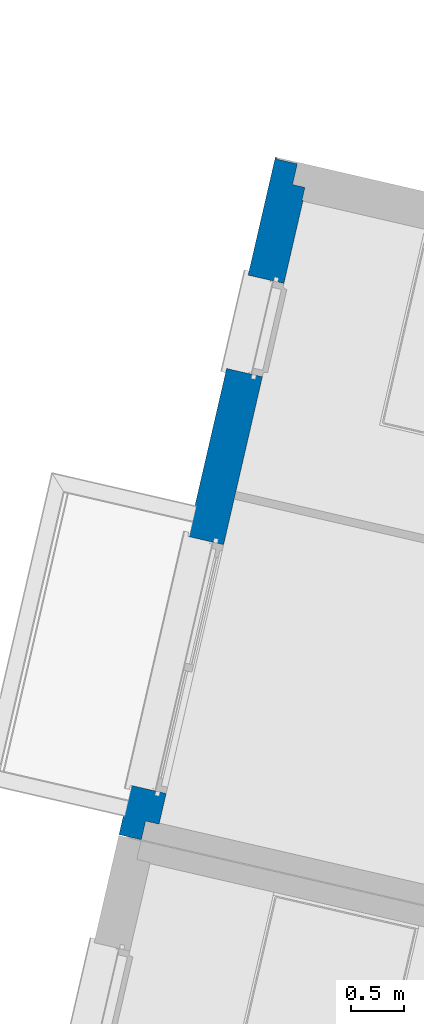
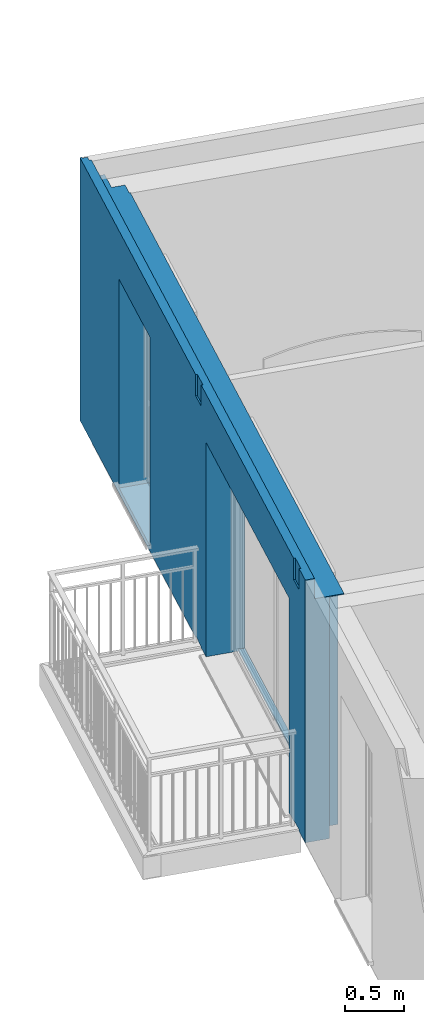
# One storey, part 29 of 90: 1 wall, 2 openings.
"""IFC2X3 building model written with IfcOpenShell, lengths in metres."""

from ifc_helpers import new_model, entity, si_unit, converted_unit, derived_unit, money_unit, direction, frame, origin_with_axes, place, context, subcontext, project, spatial, faceted_brep, material, material_list, type_object, element, save


model = new_model("IFC2X3")

# Units and contexts
model_context = context("Model", 3, precision=1e-05, world=origin_with_axes(), true_north=direction((0.0, 1.0)))
body_context = subcontext(model_context, "Body", "Model", "MODEL_VIEW")
ifc_project = project(units=[si_unit("LENGTHUNIT", "METRE"), si_unit("AREAUNIT", "SQUARE_METRE"), si_unit("VOLUMEUNIT", "CUBIC_METRE"), converted_unit("PLANEANGLEUNIT", "DEGREE", entity("IfcPlaneAngleMeasure", 0.0174532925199), si_unit("PLANEANGLEUNIT", "RADIAN"), dimensions=[0, 0, 0, 0, 0, 0, 0]), si_unit("SOLIDANGLEUNIT", "STERADIAN"), money_unit("EUR"), converted_unit("TIMEUNIT", "Year", entity("IfcTimeMeasure", 31556926.0), si_unit("TIMEUNIT", "SECOND"), dimensions=[0, 0, 1, 0, 0, 0, 0]), si_unit("MASSUNIT", "GRAM", prefix="KILO"), si_unit("THERMODYNAMICTEMPERATUREUNIT", "DEGREE_CELSIUS"), si_unit("LUMINOUSINTENSITYUNIT", "LUMEN"), si_unit("ENERGYUNIT", "JOULE", prefix="MEGA"), derived_unit("THERMALCONDUCTANCEUNIT", [(si_unit("POWERUNIT", "WATT"), 1), (si_unit("LENGTHUNIT", "METRE"), -1), (si_unit("THERMODYNAMICTEMPERATUREUNIT", "KELVIN"), -1)]), derived_unit("SPECIFICHEATCAPACITYUNIT", [(si_unit("ENERGYUNIT", "JOULE"), 1), (si_unit("MASSUNIT", "GRAM", prefix="KILO"), -1), (si_unit("THERMODYNAMICTEMPERATUREUNIT", "KELVIN"), -1)]), derived_unit("MASSDENSITYUNIT", [(si_unit("MASSUNIT", "GRAM", prefix="KILO"), 1), (si_unit("VOLUMEUNIT", "CUBIC_METRE"), -1)])], contexts=[model_context])

# Site, building, storey
site_placement = place(None, origin_with_axes())
site = spatial("IfcSite", under=ifc_project, at=site_placement, Name="Site", CompositionType="ELEMENT")
building_placement = place(site_placement, origin_with_axes())
building = spatial("IfcBuilding", under=site, at=building_placement, Name="Bâtiment", CompositionType="ELEMENT")
storey_placement = place(building_placement, frame((0.0, 0.0, 2.72), z_axis=(0.0, 0.0, 1.0), x_axis=(1.0, 0.0, 0.0)))
storey = spatial("IfcBuildingStorey", under=building, at=storey_placement, Name="R+1", CompositionType="ELEMENT", Elevation=2.72)

# Wall, openings
ifc_material_1 = material(Name="Finition int - Plaque de plâtre")
ifc_material_2 = material(Name="Isolation - Polystyrène extrudé")
ifc_material_3 = material(Name="Bloc ELITHERM")
ifc_material_4 = material(Name="Isolation - Polystyrène expansé")
ifc_material_5 = material(Name="Mortier")
ifc_material_6 = material(Name="Béton cellulaire")
ifc_material_7 = material(Name="Finition ext - Crépis")
ifc_material_list = material_list([ifc_material_1, ifc_material_2, ifc_material_3, ifc_material_4, ifc_material_5, ifc_material_6, ifc_material_7])
wall_type = type_object("IfcWallType", Name="Mur ALKERN + planelle 21 345 x 2720", PredefinedType="USERDEFINED")
wall_placement = place(storey_placement, frame((-15.4467387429, 10.3674335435, 0.0), z_axis=(0.0, 0.0, 1.0), x_axis=(-0.224876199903, -0.974387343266, 0.0)))
wall = element("IfcWall", 1, at=wall_placement, inside=storey, type_object=wall_type, material=ifc_material_list, Name="Mue bloc ALKERN isolé", ObjectType="SOLIDWALL", context=body_context, shape_type="Brep", body=[
    faceted_brep([(6.35486443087, 0.34499998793, 0.0), (0.335000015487, 0.34499998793, 0.0), (0.335000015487, 0.344999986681, 2.51), (6.53486443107, 0.344999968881, 2.51000000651), (6.53486443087, 0.344999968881, 2.5), (6.35486443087, 0.34499998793, 2.5), (2.03864319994, 0.34499998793, 2.22), (2.03864319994, 0.344999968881, 2.4), (1.13864319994, 0.344999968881, 2.4), (1.13864319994, 0.34499998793, 2.22), (1.13864319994, 0.34499998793, 0.12), (2.03864319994, 0.34499998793, 0.12), (6.05872899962, 0.34499998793, 2.22), (6.05872899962, 0.344999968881, 2.4), (3.65872899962, 0.344999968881, 2.4), (3.65872899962, 0.34499998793, 2.22), (3.65872899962, 0.34499998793, 0.02), (6.05872899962, 0.34499998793, 0.02), (6.35486443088, 0.335000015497, 0.0), (0.335000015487, 0.335000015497, 0.0), (0.335000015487, 0.335000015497, 2.51), (6.53486443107, 0.335000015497, 2.51000000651), (6.53486443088, 0.335000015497, 2.5), (6.35486443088, 0.335000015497, 2.5), (2.03864319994, 0.335000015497, 2.22), (2.03864319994, 0.335000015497, 2.4), (1.13864319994, 0.335000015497, 2.4), (1.13864319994, 0.335000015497, 2.22), (1.13864319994, 0.335000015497, 0.12), (2.03864319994, 0.335000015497, 0.12), (6.05872899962, 0.335000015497, 2.22), (6.05872899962, 0.335000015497, 2.4), (3.65872899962, 0.335000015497, 2.4), (3.65872899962, 0.335000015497, 2.22), (3.65872899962, 0.335000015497, 0.02), (6.05872899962, 0.335000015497, 0.02)], [[[0, 1, 2, 3, 4, 5], [6, 7, 8, 9, 10, 11], [12, 13, 14, 15, 16, 17]], [[18, 19, 1, 0]], [[19, 20, 2, 1]], [[3, 2, 20, 21]], [[21, 22, 4, 3]], [[23, 5, 4, 22]], [[18, 0, 5, 23]], [[24, 25, 7, 6]], [[25, 26, 8, 7]], [[26, 27, 9, 8]], [[28, 10, 9, 27]], [[29, 11, 10, 28]], [[11, 29, 24, 6]], [[13, 12, 30, 31]], [[14, 13, 31, 32]], [[15, 14, 32, 33]], [[15, 33, 34, 16]], [[16, 34, 35, 17]], [[30, 12, 17, 35]], [[21, 20, 19, 18, 23, 22], [25, 24, 29, 28, 27, 26], [31, 30, 35, 34, 33, 32]]]),
    faceted_brep([(3.65872899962, 0.245, 0.02), (3.65872899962, 0.286, 0.02), (3.65872899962, 0.335000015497, 0.02), (3.65872899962, 0.335000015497, 2.22), (3.65872899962, 0.245, 2.22), (3.65872899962, 0.215000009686, 0.02), (3.65872899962, 0.215000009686, 0.0), (3.65872899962, 0.286, 0.0), (6.05872899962, 0.286, 0.02), (6.05872899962, 0.335000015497, 0.02), (6.35486443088, 0.335000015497, 0.0), (0.214999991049, 0.335000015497, 0.0), (0.214999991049, 0.335000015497, 2.50999999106), (6.53486443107, 0.335000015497, 2.51000000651), (6.53486443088, 0.335000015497, 2.5), (6.35486443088, 0.335000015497, 2.5), (1.13864319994, 0.335000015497, 2.22), (1.13864319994, 0.335000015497, 0.12), (2.03864319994, 0.335000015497, 0.12), (2.03864319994, 0.335000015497, 2.22), (2.03864319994, 0.335000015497, 2.4), (1.13864319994, 0.335000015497, 2.4), (6.05872899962, 0.335000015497, 2.22), (6.05872899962, 0.335000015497, 2.4), (3.65872899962, 0.335000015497, 2.4), (3.65872899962, 0.215, 2.4), (3.65872899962, 0.215, 2.22), (6.05872899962, 0.215, 2.4), (6.05872899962, 0.215, 2.22), (6.05872899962, 0.215000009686, 0.02), (6.05872899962, 0.215000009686, 0.0), (6.35486443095, 0.215000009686, 0.0), (6.35486443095, 0.215000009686, 2.5), (6.53486443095, 0.215000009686, 2.5), (6.53486443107, 0.215000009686, 2.51000000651), (0.214999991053, 0.215000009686, 2.50999999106), (0.214999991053, 0.215000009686, 0.0), (2.03864319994, 0.215, 2.4), (2.03864319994, 0.215, 2.22), (2.03864319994, 0.215000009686, 0.12), (2.03864319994, 0.215000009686, 0.06), (1.13864319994, 0.215000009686, 0.06), (1.13864319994, 0.215000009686, 0.12), (1.13864319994, 0.215, 2.22), (1.13864319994, 0.215, 2.4), (6.05872899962, 0.286, 0.0), (6.05872899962, 0.245, 0.02), (6.05872899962, 0.245, 2.22), (1.13864319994, 0.245, 2.22), (1.13864319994, 0.245, 0.12), (1.13864319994, 0.286, 0.12), (2.03864319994, 0.286, 0.12), (2.03864319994, 0.245, 0.12), (2.03864319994, 0.245, 2.22), (2.03864319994, 0.286, 0.06), (1.13864319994, 0.286, 0.06)], [[[0, 1, 2, 3, 4]], [[1, 0, 5, 6, 7]], [[1, 8, 9, 2]], [[10, 11, 12, 13, 14, 15], [16, 17, 18, 19, 20, 21], [3, 2, 9, 22, 23, 24]], [[25, 26, 4, 3, 24]], [[5, 0, 4, 26]], [[6, 5, 26, 25, 27, 28, 29, 30, 31, 32, 33, 34, 35, 36], [37, 38, 39, 40, 41, 42, 43, 44]], [[7, 6, 36, 11, 10, 31, 30, 45]], [[8, 1, 7, 45]], [[8, 46, 47, 22, 9]], [[36, 35, 12, 11]], [[13, 12, 35, 34]], [[34, 33, 14, 13]], [[32, 15, 14, 33]], [[31, 10, 15, 32]], [[16, 48, 49, 50, 17]], [[50, 51, 18, 17]], [[19, 18, 51, 52, 53]], [[20, 19, 53, 38, 37]], [[20, 37, 44, 21]], [[16, 21, 44, 43, 48]], [[47, 28, 27, 23, 22]], [[23, 27, 25, 24]], [[46, 29, 28, 47]], [[46, 8, 45, 30, 29]], [[52, 39, 38, 53]], [[40, 39, 52, 51, 54]], [[41, 40, 54, 55]], [[41, 55, 50, 49, 42]], [[42, 49, 48, 43]], [[51, 50, 55, 54]]]),
    faceted_brep([(3.65872899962, 0.214999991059, 0.02), (3.65872899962, 0.214999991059, 0.0), (0.0149999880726, 0.214999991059, 0.0), (0.0149999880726, 0.214999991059, 2.50999999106), (6.53486443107, 0.214999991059, 2.51000000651), (6.5348644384, 0.214999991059, 2.5), (6.5348644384, 0.214999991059, 0.0), (6.05872899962, 0.214999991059, 0.0), (6.05872899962, 0.214999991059, 0.02), (6.05872899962, 0.214999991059, 2.22), (3.65872899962, 0.214999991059, 2.22), (2.03864319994, 0.214999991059, 0.06), (2.03864319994, 0.214999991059, 0.12), (2.03864319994, 0.214999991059, 2.22), (1.13864319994, 0.214999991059, 2.22), (1.13864319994, 0.214999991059, 0.12), (1.13864319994, 0.214999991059, 0.06), (3.65872899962, 0.015, 0.02), (3.65872899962, 0.015, 0.0), (0.0149999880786, 0.015, 0.0), (0.0149999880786, 0.015, 2.50999999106), (0.0149999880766, 0.0829999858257, 2.50999999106), (6.53486443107, 0.0829999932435, 2.51000000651), (6.53486443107, 0.015, 2.50999999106), (6.53486443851, 0.015, 2.5), (6.53486443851, 0.015, 0.0), (6.05872899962, 0.015, 0.0), (6.05872899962, 0.015, 0.02), (6.05872899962, 0.015, 2.22), (3.65872899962, 0.015, 2.22), (2.03864319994, 0.015, 0.06), (2.03864319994, 0.015, 0.12), (2.03864319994, 0.015, 2.22), (1.13864319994, 0.015, 2.22), (1.13864319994, 0.015, 0.12), (1.13864319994, 0.015, 0.06)], [[[0, 1, 2, 3, 4, 5, 6, 7, 8, 9, 10], [11, 12, 13, 14, 15, 16]], [[1, 0, 17, 18]], [[1, 18, 19, 2]], [[19, 20, 21, 3, 2]], [[3, 21, 22, 4]], [[4, 22, 23, 24, 5]], [[25, 6, 5, 24]], [[26, 7, 6, 25]], [[27, 8, 7, 26]], [[8, 27, 28, 9]], [[9, 28, 29, 10]], [[17, 0, 10, 29]], [[11, 30, 31, 12]], [[32, 13, 12, 31]], [[33, 14, 13, 32]], [[14, 33, 34, 15]], [[34, 35, 16, 15]], [[35, 30, 11, 16]], [[18, 17, 29, 28, 27, 26, 25, 24, 23, 20, 19], [35, 34, 33, 32, 31, 30]], [[21, 20, 23, 22]]]),
    faceted_brep([(6.53486443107, 0.0829999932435, 2.51999998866), (0.0629999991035, 0.0829999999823, 2.51999999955), (0.0629999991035, 0.0829999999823, 2.72), (6.53486443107, 0.0829999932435, 2.72000000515), (6.53486443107, 0.0630000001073, 2.51999999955), (0.0629999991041, 0.0630000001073, 2.51999999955), (0.0629999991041, 0.0630000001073, 2.72), (6.53486443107, 0.0630000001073, 2.72000000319)], [[[0, 1, 2, 3]], [[4, 5, 1, 0]], [[5, 6, 2, 1]], [[3, 2, 6, 7]], [[7, 4, 0, 3]], [[7, 6, 5, 4]]]),
    faceted_brep([(0.0149999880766, 0.0829999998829, 2.50999999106), (0.0149999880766, 0.0829999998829, 2.51999999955), (6.53486443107, 0.0829999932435, 2.51999998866), (6.53486443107, 0.0829999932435, 2.51000000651), (0.0149999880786, 0.015, 2.51999999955), (0.0149999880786, 0.015, 2.50999999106), (6.53486443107, 0.015, 2.52), (6.53486443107, 0.015, 2.51)], [[[0, 1, 2, 3]], [[4, 1, 0, 5]], [[1, 4, 6, 2]], [[7, 3, 2, 6]], [[5, 0, 3, 7]], [[4, 5, 7, 6]]]),
    faceted_brep([(0.0149999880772, 0.0629999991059, 2.51999999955), (0.0149999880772, 0.0629999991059, 2.72), (6.53486443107, 0.0629999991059, 2.72000000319), (6.53486443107, 0.0629999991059, 2.51999999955), (0.0149999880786, 0.015, 2.72), (0.0149999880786, 0.015, 2.51999999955), (6.53486443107, 0.015, 2.71999999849), (6.53486443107, 0.015, 2.51999999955)], [[[0, 1, 2, 3]], [[4, 1, 0, 5]], [[1, 4, 6, 2]], [[7, 3, 2, 6]], [[5, 0, 3, 7]], [[4, 5, 7, 6]]]),
    faceted_brep([(3.65872899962, 0.0150000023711, 0.02), (3.65872899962, 0.0150000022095, 0.0), (3.51872899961, 0.0150000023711, 0.0), (3.50874847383, 0.0150000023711, 0.0106237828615), (3.3687095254, 0.0150000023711, 0.0193762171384), (3.35872899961, 0.0150000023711, 0.01), (3.35872899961, 0.0150000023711, 0.0), (1.19204930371e-08, 0.0149999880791, 0.0), (1.19204930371e-08, 0.0149999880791, 2.72), (3.35872899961, 0.0150000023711, 2.72), (3.35872899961, 0.0150000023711, 2.51999999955), (3.35872899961, 0.0150000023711, 2.50999999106), (3.35872899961, 0.0150000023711, 2.50872065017), (3.35872899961, 0.0150000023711, 2.5), (3.37372899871, 0.0150000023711, 2.5), (3.39346998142, 0.0150000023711, 2.5), (3.51872899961, 0.0150000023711, 2.5), (3.51872899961, 0.0150000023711, 2.50872065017), (3.51872899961, 0.0150000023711, 2.50999999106), (3.51872899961, 0.0150000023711, 2.51999999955), (3.51872899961, 0.0150000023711, 2.72), (6.19872899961, 0.0149999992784, 2.72), (6.19872899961, 0.0149999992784, 2.51999999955), (6.19872899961, 0.0149999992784, 2.50999999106), (6.19872899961, 0.0149999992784, 2.50872065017), (6.19872899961, 0.0149999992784, 2.5), (6.32398801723, 0.0149999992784, 2.5), (6.34372899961, 0.0149999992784, 2.5), (6.35872899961, 0.0149999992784, 2.5), (6.35872899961, 0.0149999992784, 2.50872065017), (6.35872899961, 0.0149999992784, 2.50999999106), (6.35872899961, 0.0149999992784, 2.51999999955), (6.35872899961, 0.0149999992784, 2.72), (6.53486443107, 0.0149999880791, 2.71999999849), (6.53486443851, 0.0149999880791, 2.5), (6.53486443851, 0.0149999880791, 0.0), (6.35872899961, 0.0149999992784, 0.0), (6.35872899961, 0.0149999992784, 0.01), (6.34874847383, 0.0149999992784, 0.0193762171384), (6.2087095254, 0.0149999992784, 0.0106237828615), (6.19872899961, 0.0149999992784, 0.0), (6.05872899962, 0.01499999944, 0.0), (6.05872899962, 0.0150000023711, 0.02), (6.05872899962, 0.0150000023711, 2.22), (3.65872899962, 0.0150000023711, 2.22), (2.03864319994, 0.0150000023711, 0.06), (2.03864319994, 0.0150000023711, 0.12), (2.03864319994, 0.0150000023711, 2.22), (1.13864319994, 0.0150000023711, 2.22), (1.13864319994, 0.0150000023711, 0.12), (1.13864319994, 0.0150000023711, 0.06), (3.65872899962, 0.0, 0.02), (3.65872899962, 0.0, 0.0), (3.51872899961, 0.0, 0.0), (3.50874847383, 0.0, 0.0106237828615), (3.3687095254, 0.0, 0.0193762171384), (3.35872899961, 0.0, 0.01), (3.35872899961, 0.0, 0.0), (1.1920940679e-08, 0.0, 0.0), (1.1920940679e-08, 0.0, 2.72), (3.35872899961, 0.0, 2.72), (3.35872899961, 0.0, 2.51999999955), (3.35872899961, 0.0, 2.50999999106), (3.35872899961, 0.0, 2.50872065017), (3.35872899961, 0.0, 2.5), (3.37372899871, 0.0, 2.5), (3.39346998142, 0.0, 2.5), (3.51872899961, 0.0, 2.5), (3.51872899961, 0.0, 2.50872065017), (3.51872899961, 0.0, 2.50999999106), (3.51872899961, 0.0, 2.51999999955), (3.51872899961, 0.0, 2.72), (6.19872899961, 1.18102860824e-10, 2.72), (6.19872899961, 0.0, 2.51999999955), (6.19872899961, 0.0, 2.50999999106), (6.19872899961, 0.0, 2.50872065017), (6.19872899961, 0.0, 2.5), (6.32398801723, 0.0, 2.5), (6.34372899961, 0.0, 2.5), (6.35872899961, 0.0, 2.5), (6.35872899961, 0.0, 2.50872065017), (6.35872899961, 0.0, 2.50999999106), (6.35872899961, 0.0, 2.51999999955), (6.35872899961, 1.21101351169e-10, 2.72), (6.53486443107, 1.24405374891e-10, 2.71999999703), (6.53486443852, 1.24405374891e-10, 2.5), (6.53486443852, 0.0, 0.0), (6.35872899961, 0.0, 0.0), (6.35872899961, 0.0, 0.01), (6.34874847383, 0.0, 0.0193762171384), (6.2087095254, 0.0, 0.0106237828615), (6.19872899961, 0.0, 0.0), (6.05872899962, 0.0, 0.0), (6.05872899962, 0.0, 0.02), (6.05872899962, 0.0, 2.22), (3.65872899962, 0.0, 2.22), (2.03864319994, 0.0, 0.06), (2.03864319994, 0.0, 0.12), (2.03864319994, 0.0, 2.22), (1.13864319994, 0.0, 2.22), (1.13864319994, 0.0, 0.12), (1.13864319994, 0.0, 0.06)], [[[0, 1, 2, 3, 4, 5, 6, 7, 8, 9, 10, 11, 12, 13, 14, 15, 16, 17, 18, 19, 20, 21, 22, 23, 24, 25, 26, 27, 28, 29, 30, 31, 32, 33, 34, 35, 36, 37, 38, 39, 40, 41, 42, 43, 44], [45, 46, 47, 48, 49, 50]], [[1, 0, 51, 52]], [[1, 52, 53, 2]], [[54, 3, 2, 53]], [[55, 4, 3, 54]], [[56, 5, 4, 55]], [[57, 6, 5, 56]], [[7, 6, 57, 58]], [[7, 58, 59, 8]], [[59, 60, 9, 8]], [[61, 10, 9, 60]], [[11, 10, 61, 62]], [[12, 11, 62, 63]], [[13, 12, 63, 64]], [[64, 65, 14, 13]], [[65, 66, 15, 14]], [[67, 16, 15, 66]], [[67, 68, 17, 16]], [[68, 69, 18, 17]], [[69, 70, 19, 18]], [[70, 71, 20, 19]], [[71, 72, 21, 20]], [[73, 22, 21, 72]], [[23, 22, 73, 74]], [[24, 23, 74, 75]], [[25, 24, 75, 76]], [[76, 77, 26, 25]], [[77, 78, 27, 26]], [[79, 28, 27, 78]], [[79, 80, 29, 28]], [[80, 81, 30, 29]], [[81, 82, 31, 30]], [[82, 83, 32, 31]], [[33, 32, 83, 84]], [[33, 84, 85, 34]], [[85, 86, 35, 34]], [[86, 87, 36, 35]], [[88, 37, 36, 87]], [[89, 38, 37, 88]], [[90, 39, 38, 89]], [[90, 91, 40, 39]], [[92, 41, 40, 91]], [[93, 42, 41, 92]], [[42, 93, 94, 43]], [[43, 94, 95, 44]], [[51, 0, 44, 95]], [[45, 96, 97, 46]], [[98, 47, 46, 97]], [[99, 48, 47, 98]], [[48, 99, 100, 49]], [[100, 101, 50, 49]], [[101, 96, 45, 50]], [[52, 51, 95, 94, 93, 92, 91, 90, 89, 88, 87, 86, 85, 84, 83, 82, 81, 80, 79, 78, 77, 76, 75, 74, 73, 72, 71, 70, 69, 68, 67, 66, 65, 64, 63, 62, 61, 60, 59, 58, 57, 56, 55, 54, 53], [101, 100, 99, 98, 97, 96]]]),
])
opening_1_placement = place(wall_placement, frame((1.58864319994, 0.0, 0.12), z_axis=(0.0, 0.0, 1.0), x_axis=(1.0, 0.0, 0.0)))
element("IfcOpeningElement", 2, at=opening_1_placement, cuts=wall, Name="MEN 43", context=body_context, shape_type="Brep", body=[
    faceted_brep([(-0.45, 0.83499998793, 0.0), (0.45, 0.83499998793, 0.0), (0.45, 0.245, 0.0), (-0.45, 0.245, 0.0), (-0.45, 0.83499998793, 2.1), (0.45, 0.83499998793, 2.1), (0.45, 0.245, 2.1), (-0.45, 0.245, 2.1)], [[[0, 1, 2, 3]], [[0, 4, 5, 1]], [[1, 5, 6, 2]], [[3, 2, 6, 7]], [[4, 0, 3, 7]], [[5, 4, 7, 6]]]),
    faceted_brep([(-0.45, -0.34499998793, 0.0), (-0.45, -0.34499998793, 2.1), (-0.45, 0.245, 2.1), (-0.45, 0.245, 0.0), (0.45, -0.34499998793, 0.0), (0.45, -0.34499998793, 2.1), (0.45, 0.245, 2.1), (0.45, 0.245, 0.0)], [[[0, 1, 2, 3]], [[0, 4, 5, 1]], [[1, 5, 6, 2]], [[3, 2, 6, 7]], [[4, 0, 3, 7]], [[5, 4, 7, 6]]]),
    faceted_brep([(-0.45, -0.34499998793, 0.0), (-0.45, -0.34499998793, 2.1), (-0.45, 0.245, 2.1), (-0.45, 0.245, 0.0), (0.45, -0.34499998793, 0.0), (0.45, -0.34499998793, 2.1), (0.45, 0.245, 2.1), (0.45, 0.245, 0.0)], [[[0, 1, 2, 3]], [[0, 4, 5, 1]], [[1, 5, 6, 2]], [[3, 2, 6, 7]], [[4, 0, 3, 7]], [[5, 4, 7, 6]]]),
    faceted_brep([(-0.45, 0.80499998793, 2.1), (0.45, 0.80499998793, 2.1), (0.45, 0.215, 2.1), (-0.45, 0.215, 2.1), (-0.45, 0.80499998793, 2.28), (0.45, 0.80499998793, 2.28), (0.45, 0.215, 2.28), (-0.45, 0.215, 2.28)], [[[0, 1, 2, 3]], [[0, 4, 5, 1]], [[1, 5, 6, 2]], [[3, 2, 6, 7]], [[4, 0, 3, 7]], [[5, 4, 7, 6]]]),
    faceted_brep([(-0.45, -0.30399998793, 0.0), (0.45, -0.30399998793, 0.0), (0.45, 0.286, 0.0), (-0.45, 0.286, 0.0), (-0.45, -0.30399998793, -0.06), (0.45, -0.30399998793, -0.06), (0.45, 0.286, -0.06), (-0.45, 0.286, -0.06)], [[[0, 1, 2, 3]], [[0, 4, 5, 1]], [[1, 5, 6, 2]], [[3, 2, 6, 7]], [[4, 0, 3, 7]], [[5, 4, 7, 6]]]),
])
opening_2_placement = place(wall_placement, frame((4.85872899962, 0.0, 0.02), z_axis=(0.0, 0.0, 1.0), x_axis=(1.0, 0.0, 0.0)))
element("IfcOpeningElement", 3, at=opening_2_placement, cuts=wall, Name="MEN 44", context=body_context, shape_type="Brep", body=[
    faceted_brep([(1.2, 0.245, 0.0), (-1.2, 0.245, 0.0), (-1.2, 0.83499998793, 0.0), (1.2, 0.83499998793, 0.0), (1.2, 0.245, 2.2), (-1.2, 0.245, 2.2), (-1.2, 0.83499998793, 2.2), (1.2, 0.83499998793, 2.2)], [[[0, 1, 2, 3]], [[0, 4, 5, 1]], [[1, 5, 6, 2]], [[3, 2, 6, 7]], [[4, 0, 3, 7]], [[5, 4, 7, 6]]]),
    faceted_brep([(1.2, 0.245, 0.0), (1.2, 0.245, 2.2), (1.2, -0.34499998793, 2.2), (1.2, -0.34499998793, 0.0), (-1.2, 0.245, 0.0), (-1.2, 0.245, 2.2), (-1.2, -0.34499998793, 2.2), (-1.2, -0.34499998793, 0.0)], [[[0, 1, 2, 3]], [[0, 4, 5, 1]], [[1, 5, 6, 2]], [[3, 2, 6, 7]], [[4, 0, 3, 7]], [[5, 4, 7, 6]]]),
    faceted_brep([(1.2, 0.245, 0.0), (1.2, 0.245, 2.2), (1.2, -0.34499998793, 2.2), (1.2, -0.34499998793, 0.0), (-1.2, 0.245, 0.0), (-1.2, 0.245, 2.2), (-1.2, -0.34499998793, 2.2), (-1.2, -0.34499998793, 0.0)], [[[0, 1, 2, 3]], [[0, 4, 5, 1]], [[1, 5, 6, 2]], [[3, 2, 6, 7]], [[4, 0, 3, 7]], [[5, 4, 7, 6]]]),
    faceted_brep([(1.2, 0.215, 2.2), (-1.2, 0.215, 2.2), (-1.2, 0.80499998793, 2.2), (1.2, 0.80499998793, 2.2), (1.2, 0.215, 2.38), (-1.2, 0.215, 2.38), (-1.2, 0.80499998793, 2.38), (1.2, 0.80499998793, 2.38)], [[[0, 1, 2, 3]], [[0, 4, 5, 1]], [[1, 5, 6, 2]], [[3, 2, 6, 7]], [[4, 0, 3, 7]], [[5, 4, 7, 6]]]),
    faceted_brep([(1.2, 0.286, 0.0), (-1.2, 0.286, 0.0), (-1.2, -0.30399998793, 0.0), (1.2, -0.30399998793, 0.0), (1.2, 0.286, -0.06), (-1.2, 0.286, -0.06), (-1.2, -0.30399998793, -0.06), (1.2, -0.30399998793, -0.06)], [[[0, 1, 2, 3]], [[0, 4, 5, 1]], [[1, 5, 6, 2]], [[3, 2, 6, 7]], [[4, 0, 3, 7]], [[5, 4, 7, 6]]]),
])

save(model, "model.ifc")
